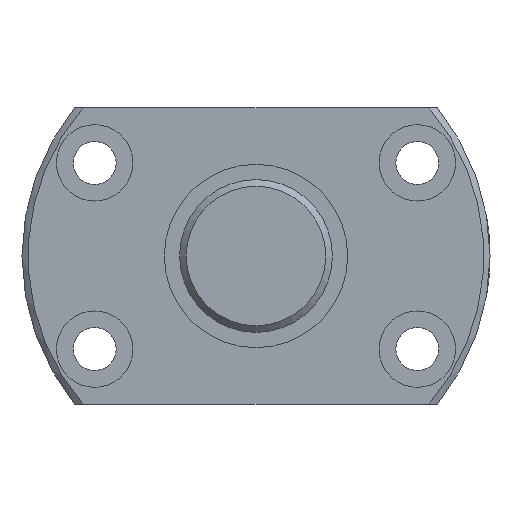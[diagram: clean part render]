
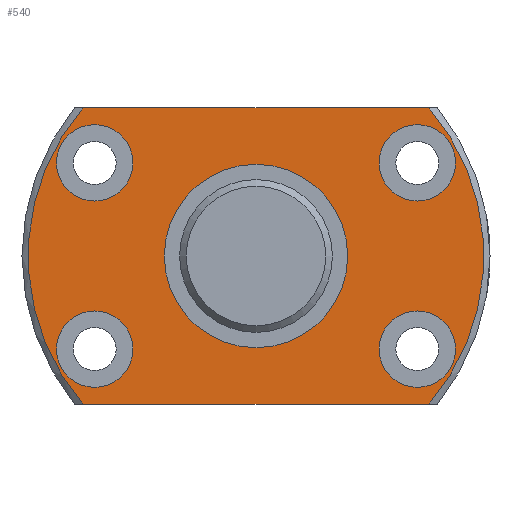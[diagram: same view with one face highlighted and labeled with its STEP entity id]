
A CAD part, left-side view. The second image highlights one B-rep face of the part: STEP entity #540.
In plain terms, the highlighted planar face has unit normal (-1, 0, 0).
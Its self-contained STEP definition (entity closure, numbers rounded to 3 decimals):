
#28=LINE('',#893,#36);
#29=LINE('',#898,#37);
#36=VECTOR('',#721,1000.);
#37=VECTOR('',#724,1000.);
#91=ORIENTED_EDGE('',*,*,#207,.T.);
#92=ORIENTED_EDGE('',*,*,#208,.T.);
#93=ORIENTED_EDGE('',*,*,#209,.T.);
#94=ORIENTED_EDGE('',*,*,#210,.T.);
#95=ORIENTED_EDGE('',*,*,#211,.T.);
#96=ORIENTED_EDGE('',*,*,#212,.F.);
#97=ORIENTED_EDGE('',*,*,#213,.T.);
#98=ORIENTED_EDGE('',*,*,#214,.F.);
#99=ORIENTED_EDGE('',*,*,#215,.T.);
#207=EDGE_CURVE('',#267,#267,#319,.T.);
#208=EDGE_CURVE('',#268,#268,#320,.T.);
#209=EDGE_CURVE('',#269,#269,#321,.T.);
#210=EDGE_CURVE('',#270,#270,#322,.T.);
#211=EDGE_CURVE('',#271,#271,#323,.T.);
#212=EDGE_CURVE('',#272,#273,#28,.T.);
#213=EDGE_CURVE('',#272,#274,#324,.F.);
#214=EDGE_CURVE('',#275,#274,#29,.T.);
#215=EDGE_CURVE('',#275,#273,#325,.F.);
#267=VERTEX_POINT('',#884);
#268=VERTEX_POINT('',#886);
#269=VERTEX_POINT('',#888);
#270=VERTEX_POINT('',#890);
#271=VERTEX_POINT('',#892);
#272=VERTEX_POINT('',#894);
#273=VERTEX_POINT('',#895);
#274=VERTEX_POINT('',#897);
#275=VERTEX_POINT('',#899);
#319=CIRCLE('',#613,9.6);
#320=CIRCLE('',#614,4.);
#321=CIRCLE('',#615,4.);
#322=CIRCLE('',#616,4.);
#323=CIRCLE('',#617,4.);
#324=CIRCLE('',#618,23.85);
#325=CIRCLE('',#619,23.85);
#365=EDGE_LOOP('',(#91));
#366=EDGE_LOOP('',(#92));
#367=EDGE_LOOP('',(#93));
#368=EDGE_LOOP('',(#94));
#369=EDGE_LOOP('',(#95));
#370=EDGE_LOOP('',(#96,#97,#98,#99));
#447=FACE_BOUND('',#365,.T.);
#448=FACE_BOUND('',#366,.T.);
#449=FACE_BOUND('',#367,.T.);
#450=FACE_BOUND('',#368,.T.);
#451=FACE_BOUND('',#369,.T.);
#452=FACE_BOUND('',#370,.T.);
#523=PLANE('',#612);
#540=ADVANCED_FACE('',(#447,#448,#449,#450,#451,#452),#523,.F.);
#612=AXIS2_PLACEMENT_3D('',#882,#709,#710);
#613=AXIS2_PLACEMENT_3D('',#883,#711,#712);
#614=AXIS2_PLACEMENT_3D('',#885,#713,#714);
#615=AXIS2_PLACEMENT_3D('',#887,#715,#716);
#616=AXIS2_PLACEMENT_3D('',#889,#717,#718);
#617=AXIS2_PLACEMENT_3D('',#891,#719,#720);
#618=AXIS2_PLACEMENT_3D('',#896,#722,#723);
#619=AXIS2_PLACEMENT_3D('',#900,#725,#726);
#709=DIRECTION('',(1.,0.,0.));
#710=DIRECTION('',(0.,0.,-1.));
#711=DIRECTION('',(1.,0.,0.));
#712=DIRECTION('',(0.,0.,-1.));
#713=DIRECTION('',(1.,0.,0.));
#714=DIRECTION('',(0.,0.,-1.));
#715=DIRECTION('',(1.,0.,0.));
#716=DIRECTION('',(0.,0.,-1.));
#717=DIRECTION('',(1.,0.,0.));
#718=DIRECTION('',(0.,0.,-1.));
#719=DIRECTION('',(1.,0.,0.));
#720=DIRECTION('',(0.,0.,-1.));
#721=DIRECTION('',(0.,1.,0.));
#722=DIRECTION('',(1.,0.,0.));
#723=DIRECTION('',(0.,0.,-1.));
#724=DIRECTION('',(0.,-1.,0.));
#725=DIRECTION('',(1.,0.,0.));
#726=DIRECTION('',(0.,0.,-1.));
#882=CARTESIAN_POINT('',(0.,0.,0.));
#883=CARTESIAN_POINT('',(0.,0.,0.));
#884=CARTESIAN_POINT('',(0.,0.,-9.6));
#885=CARTESIAN_POINT('',(0.,16.887,-9.75));
#886=CARTESIAN_POINT('',(0.,16.887,-13.75));
#887=CARTESIAN_POINT('',(0.,-16.887,9.75));
#888=CARTESIAN_POINT('',(0.,-16.887,5.75));
#889=CARTESIAN_POINT('',(0.,-16.887,-9.75));
#890=CARTESIAN_POINT('',(0.,-16.887,-13.75));
#891=CARTESIAN_POINT('',(0.,16.887,9.75));
#892=CARTESIAN_POINT('',(0.,16.887,5.75));
#893=CARTESIAN_POINT('',(0.,-18.974,-15.5));
#894=CARTESIAN_POINT('',(0.,-18.127,-15.5));
#895=CARTESIAN_POINT('',(0.,18.127,-15.5));
#896=CARTESIAN_POINT('',(0.,0.,0.));
#897=CARTESIAN_POINT('',(0.,-18.127,15.5));
#898=CARTESIAN_POINT('',(0.,18.974,15.5));
#899=CARTESIAN_POINT('',(0.,18.127,15.5));
#900=CARTESIAN_POINT('',(0.,0.,0.));
